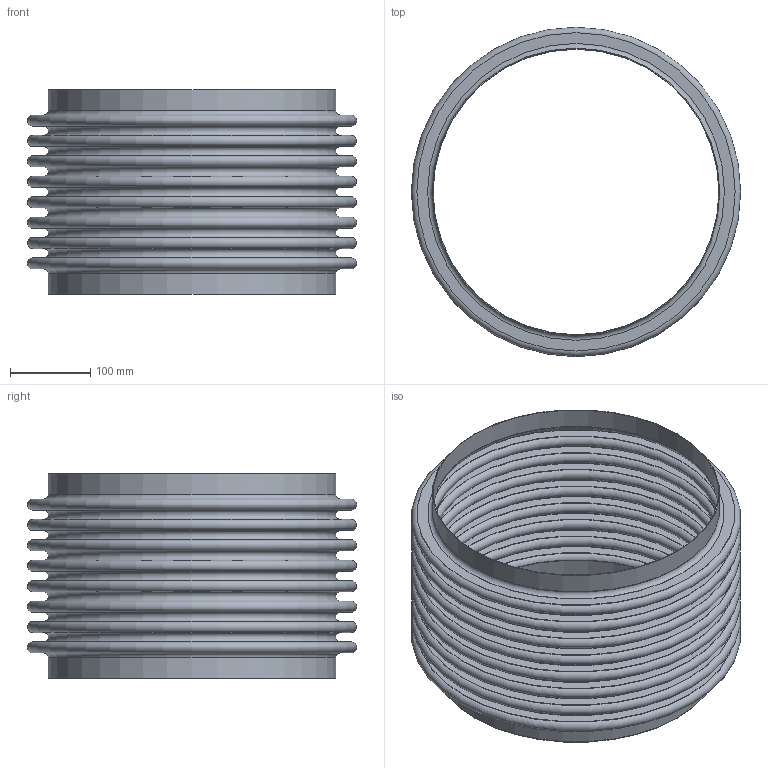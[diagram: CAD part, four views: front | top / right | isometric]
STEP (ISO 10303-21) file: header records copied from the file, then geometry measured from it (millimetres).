
FILE_DESCRIPTION(/* description */ (''),/* implementation_level */ '2;1');
FILE_NAME(/* name */ 'US-14-8-85S.stp',/* time_stamp */ '2026-07-21T11:15:04-05:00',/* author */ ('linda'),/* organization */ (''),/* preprocessor_version */ 'ST-DEVELOPER v20.1',/* originating_system */ 'Autodesk Inventor 2026',/* authorisation */ '');
FILE_SCHEMA (('AUTOMOTIVE_DESIGN { 1 0 10303 214 3 1 1 }'));
Length unit declared in the file: inch
Products named in the file (1): Part3
Bounding box: 409.57 x 409.57 x 254 mm (x, y, z)
Volume: 637990.4 mm3; surface area: 1401574.6 mm2
Topology: 3 solids, 3 shells, 76 faces, 114 edges, 77 vertices
Faces by surface type: plane 38, torus 34, cylinder 4
Full cylindrical faces by diameter (mm): 355.6 x2, 357.429 x2
Entity records: 1899 total; most frequent: DIRECTION 378, CARTESIAN_POINT 268, ORIENTED_EDGE 228, AXIS2_PLACEMENT_3D 187, EDGE_LOOP 114, EDGE_CURVE 114, CIRCLE 110, STYLED_ITEM 79
